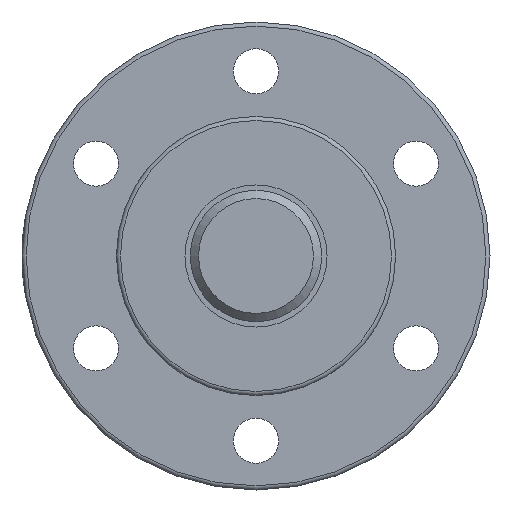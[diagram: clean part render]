
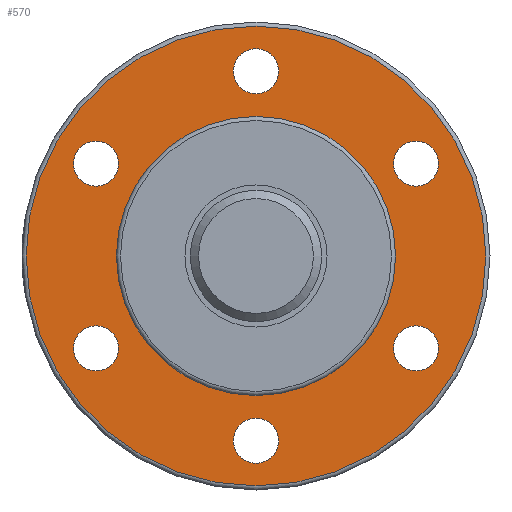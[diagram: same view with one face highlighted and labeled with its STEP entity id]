
A CAD part, left-side view. The second image highlights one B-rep face of the part: STEP entity #570.
In plain terms, the highlighted planar face has unit normal (-1, 0, 0).
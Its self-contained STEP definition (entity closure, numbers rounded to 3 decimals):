
#71=PLANE('',#666);
#142=ORIENTED_EDGE('',*,*,#230,.F.);
#143=ORIENTED_EDGE('',*,*,#229,.T.);
#144=ORIENTED_EDGE('',*,*,#231,.F.);
#145=ORIENTED_EDGE('',*,*,#232,.F.);
#146=ORIENTED_EDGE('',*,*,#233,.F.);
#147=ORIENTED_EDGE('',*,*,#234,.F.);
#148=ORIENTED_EDGE('',*,*,#235,.F.);
#149=ORIENTED_EDGE('',*,*,#236,.F.);
#229=EDGE_CURVE('',#284,#284,#330,.T.);
#230=EDGE_CURVE('',#285,#285,#331,.T.);
#231=EDGE_CURVE('',#286,#286,#332,.T.);
#232=EDGE_CURVE('',#287,#287,#333,.T.);
#233=EDGE_CURVE('',#288,#288,#334,.T.);
#234=EDGE_CURVE('',#289,#289,#335,.T.);
#235=EDGE_CURVE('',#290,#290,#336,.T.);
#236=EDGE_CURVE('',#291,#291,#337,.T.);
#284=VERTEX_POINT('',#997);
#285=VERTEX_POINT('',#1000);
#286=VERTEX_POINT('',#1002);
#287=VERTEX_POINT('',#1004);
#288=VERTEX_POINT('',#1006);
#289=VERTEX_POINT('',#1008);
#290=VERTEX_POINT('',#1010);
#291=VERTEX_POINT('',#1012);
#330=CIRCLE('',#665,17.);
#331=CIRCLE('',#667,28.);
#332=CIRCLE('',#668,2.75);
#333=CIRCLE('',#669,2.75);
#334=CIRCLE('',#670,2.75);
#335=CIRCLE('',#671,2.75);
#336=CIRCLE('',#672,2.75);
#337=CIRCLE('',#673,2.75);
#398=EDGE_LOOP('',(#142));
#399=EDGE_LOOP('',(#143));
#400=EDGE_LOOP('',(#144));
#401=EDGE_LOOP('',(#145));
#402=EDGE_LOOP('',(#146));
#403=EDGE_LOOP('',(#147));
#404=EDGE_LOOP('',(#148));
#405=EDGE_LOOP('',(#149));
#489=FACE_BOUND('',#398,.T.);
#490=FACE_BOUND('',#399,.T.);
#491=FACE_BOUND('',#400,.T.);
#492=FACE_BOUND('',#401,.T.);
#493=FACE_BOUND('',#402,.T.);
#494=FACE_BOUND('',#403,.T.);
#495=FACE_BOUND('',#404,.T.);
#496=FACE_BOUND('',#405,.T.);
#570=ADVANCED_FACE('',(#489,#490,#491,#492,#493,#494,#495,#496),#71,.T.);
#665=AXIS2_PLACEMENT_3D('',#996,#817,#818);
#666=AXIS2_PLACEMENT_3D('',#998,#819,#820);
#667=AXIS2_PLACEMENT_3D('',#999,#821,#822);
#668=AXIS2_PLACEMENT_3D('',#1001,#823,#824);
#669=AXIS2_PLACEMENT_3D('',#1003,#825,#826);
#670=AXIS2_PLACEMENT_3D('',#1005,#827,#828);
#671=AXIS2_PLACEMENT_3D('',#1007,#829,#830);
#672=AXIS2_PLACEMENT_3D('',#1009,#831,#832);
#673=AXIS2_PLACEMENT_3D('',#1011,#833,#834);
#817=DIRECTION('',(1.,0.,0.));
#818=DIRECTION('',(0.,0.,-1.));
#819=DIRECTION('',(-1.,0.,0.));
#820=DIRECTION('',(0.,0.,1.));
#821=DIRECTION('',(1.,0.,0.));
#822=DIRECTION('',(0.,0.,-1.));
#823=DIRECTION('',(-1.,0.,0.));
#824=DIRECTION('',(0.,0.,1.));
#825=DIRECTION('',(-1.,0.,0.));
#826=DIRECTION('',(0.,0.,1.));
#827=DIRECTION('',(-1.,0.,0.));
#828=DIRECTION('',(0.,0.,1.));
#829=DIRECTION('',(-1.,0.,0.));
#830=DIRECTION('',(0.,0.,1.));
#831=DIRECTION('',(-1.,0.,0.));
#832=DIRECTION('',(0.,0.,1.));
#833=DIRECTION('',(-1.,0.,0.));
#834=DIRECTION('',(0.,0.,1.));
#996=CARTESIAN_POINT('',(-11.,0.,0.));
#997=CARTESIAN_POINT('',(-11.,0.,-17.));
#998=CARTESIAN_POINT('',(-11.,-69.379,0.));
#999=CARTESIAN_POINT('',(-11.,0.,0.));
#1000=CARTESIAN_POINT('',(-11.,0.,-28.));
#1001=CARTESIAN_POINT('',(-11.,0.,-22.5));
#1002=CARTESIAN_POINT('',(-11.,0.,-19.75));
#1003=CARTESIAN_POINT('',(-11.,-19.486,-11.25));
#1004=CARTESIAN_POINT('',(-11.,-19.486,-8.5));
#1005=CARTESIAN_POINT('',(-11.,-19.486,11.25));
#1006=CARTESIAN_POINT('',(-11.,-19.486,14.));
#1007=CARTESIAN_POINT('',(-11.,0.,22.5));
#1008=CARTESIAN_POINT('',(-11.,0.,25.25));
#1009=CARTESIAN_POINT('',(-11.,19.486,11.25));
#1010=CARTESIAN_POINT('',(-11.,19.486,14.));
#1011=CARTESIAN_POINT('',(-11.,19.486,-11.25));
#1012=CARTESIAN_POINT('',(-11.,19.486,-8.5));
